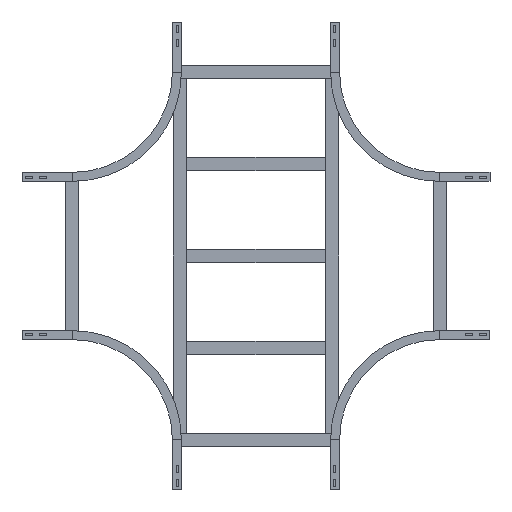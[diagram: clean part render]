
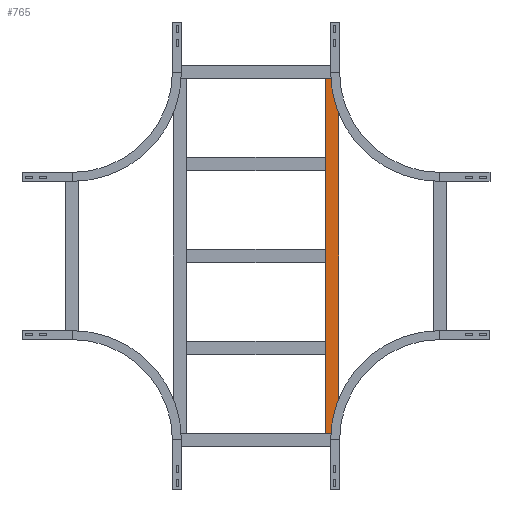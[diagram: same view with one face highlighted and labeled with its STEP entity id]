
A CAD part, front view. The second image highlights one B-rep face of the part: STEP entity #765.
In plain terms, the highlighted planar face has unit normal (0, -1, 0).
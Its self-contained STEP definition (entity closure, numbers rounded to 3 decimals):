
#34 = FACE_OUTER_BOUND ( 'NONE', #1388, .T. ) ;
#51 = VECTOR ( 'NONE', #59, 1000. ) ;
#59 = DIRECTION ( 'NONE',  ( 0., 0., -1. ) ) ;
#105 = VECTOR ( 'NONE', #1457, 1000. ) ;
#170 = CARTESIAN_POINT ( 'NONE',  ( -529.75, 0., 20.25 ) ) ;
#218 = CARTESIAN_POINT ( 'NONE',  ( 529.75, 0., 20.25 ) ) ;
#400 = DIRECTION ( 'NONE',  ( 0., 0., -1. ) ) ;
#403 = EDGE_CURVE ( 'NONE', #1629, #622, #1029, .T. ) ;
#520 = CARTESIAN_POINT ( 'NONE',  ( -529.75, 0., 20.25 ) ) ;
#597 = DIRECTION ( 'NONE',  ( 0., 1., 0. ) ) ;
#622 = VERTEX_POINT ( 'NONE', #520 ) ;
#630 = VERTEX_POINT ( 'NONE', #2281 ) ;
#765 = ADVANCED_FACE ( 'NONE', ( #34 ), #2331, .F. ) ;
#771 = LINE ( 'NONE', #170, #2422 ) ;
#849 = CARTESIAN_POINT ( 'NONE',  ( 529.75, 0., 20.25 ) ) ;
#865 = EDGE_CURVE ( 'NONE', #1629, #1010, #1039, .T. ) ;
#981 = DIRECTION ( 'NONE',  ( 0., 0., 1. ) ) ;
#1010 = VERTEX_POINT ( 'NONE', #2434 ) ;
#1029 = LINE ( 'NONE', #849, #105 ) ;
#1039 = LINE ( 'NONE', #1403, #51 ) ;
#1193 = ORIENTED_EDGE ( 'NONE', *, *, #403, .T. ) ;
#1388 = EDGE_LOOP ( 'NONE', ( #2467, #1699, #2409, #1193 ) ) ;
#1403 = CARTESIAN_POINT ( 'NONE',  ( 529.75, 0., 20.25 ) ) ;
#1457 = DIRECTION ( 'NONE',  ( -1., 0., 0. ) ) ;
#1542 = DIRECTION ( 'NONE',  ( -1., 0., 0. ) ) ;
#1629 = VERTEX_POINT ( 'NONE', #1794 ) ;
#1648 = VECTOR ( 'NONE', #1542, 1000. ) ;
#1699 = ORIENTED_EDGE ( 'NONE', *, *, #2391, .F. ) ;
#1794 = CARTESIAN_POINT ( 'NONE',  ( 529.75, 0., 20.25 ) ) ;
#1881 = CARTESIAN_POINT ( 'NONE',  ( 529.75, 0., -20.25 ) ) ;
#1917 = LINE ( 'NONE', #1881, #1648 ) ;
#2264 = AXIS2_PLACEMENT_3D ( 'NONE', #218, #597, #981 ) ;
#2281 = CARTESIAN_POINT ( 'NONE',  ( -529.75, 0., -20.25 ) ) ;
#2331 = PLANE ( 'NONE',  #2264 ) ;
#2379 = EDGE_CURVE ( 'NONE', #622, #630, #771, .T. ) ;
#2391 = EDGE_CURVE ( 'NONE', #1010, #630, #1917, .T. ) ;
#2409 = ORIENTED_EDGE ( 'NONE', *, *, #865, .F. ) ;
#2422 = VECTOR ( 'NONE', #400, 1000. ) ;
#2434 = CARTESIAN_POINT ( 'NONE',  ( 529.75, 0., -20.25 ) ) ;
#2467 = ORIENTED_EDGE ( 'NONE', *, *, #2379, .T. ) ;
